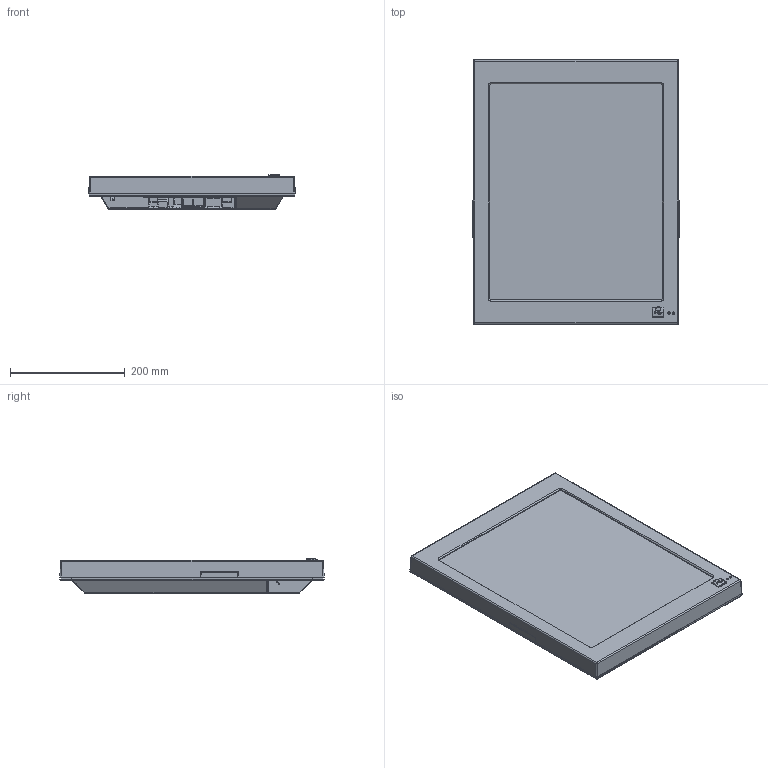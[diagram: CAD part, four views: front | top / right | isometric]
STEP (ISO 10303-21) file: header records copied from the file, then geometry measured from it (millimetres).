
FILE_DESCRIPTION (( 'STEP AP214' ), '1' );
FILE_NAME ('ETT1962 support.STEP', '2016-05-31T05:31:31', ( 'SIGMATEK GmbH & Co KG' ), ( 'SIGMATEK GmbH & Co KG' ), 'SwSTEP 2.0', 'SolidWorks 2015', '' );
FILE_SCHEMA (( 'AUTOMOTIVE_DESIGN' ));
Length unit declared in the file: millimetre
Products named in the file (13): s_m3_0; Steckerblech ETV199x_11114 mit Glastouch; ETT192 Gehäuse support; 19z Frontrahmen support; Steckzunge 6,3 m.B. M3 DIN46244 St-verzinnt; ETT1962 support; 123901-KPL-00 support; 7227771121 Display AUO_G190EG02 V1; Higgstec_T190C-5RBA16X-3A28R4-200FH_Gerade; Erdungsaufkleber; USB-Abdeckung 3030201647-2 (RAL7024 grafitgrau)_mit Stiftdichtung; Abdeckung Chipkartendurchbruch 9_4_2
Assembly tree (14 placements, depth 3):
  ETT1962 support
    Steckzunge 6,3 m.B. M3 DIN46244 St-verzinnt
    19z Frontrahmen support
    ETT192 Gehäuse support
    Steckerblech ETV199x_11114 mit Glastouch
      Steckerblech ETV199x_11114 mit Glastouch
      s_m3_0  x2
    Abdeckung Chipkartendurchbruch 9_4_2  x2
    USB-Abdeckung 3030201647-2 (RAL7024 grafitgrau)_mit Stiftdichtung
    Erdungsaufkleber
    Higgstec_T190C-5RBA16X-3A28R4-200FH_Gerade
    7227771121 Display AUO_G190EG02 V1
    123901-KPL-00 support
Bounding box: 360 x 461.61 x 60.32 mm (x, y, z)
Volume: 2561048.3 mm3; surface area: 1205259.1 mm2
Topology: 13 solids, 13 shells, 1989 faces, 5178 edges, 3278 vertices
Faces by surface type: plane 1341, cylinder 302, bspline 206, cone 83, torus 31, sphere 26
Entity records: 73711 total; most frequent: CARTESIAN_POINT 22023, ORIENTED_EDGE 9874, DIRECTION 8412, EDGE_CURVE 4937, VECTOR 3748, LINE 3748, VERTEX_POINT 3130, AXIS2_PLACEMENT_3D 2332
